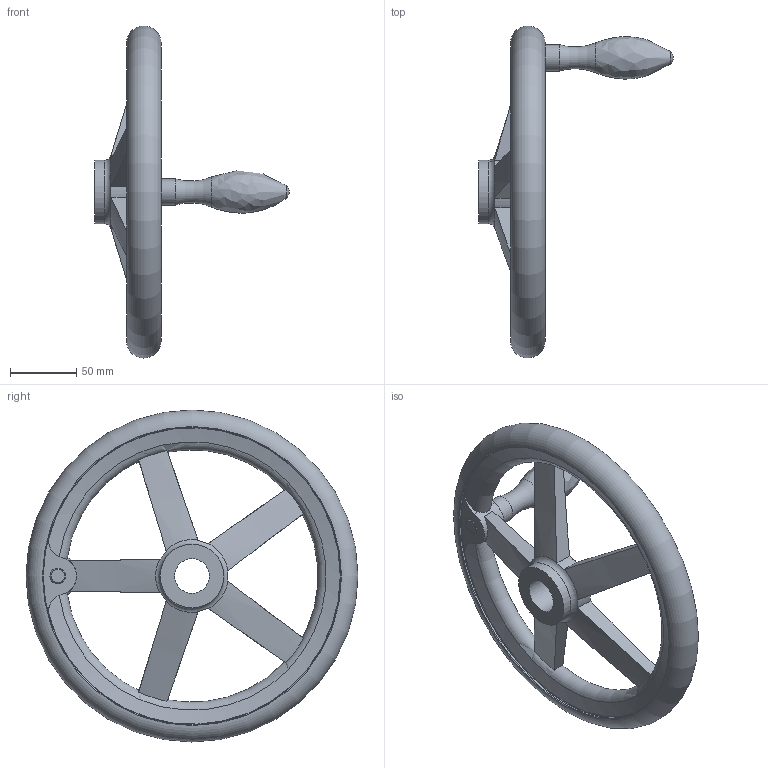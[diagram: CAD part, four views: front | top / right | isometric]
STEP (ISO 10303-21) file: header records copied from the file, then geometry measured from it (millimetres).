
FILE_DESCRIPTION( ( 'STEP AP203' ), '1' );
FILE_NAME( 'C:/Temp/Ganter_Step_05_03_2020/data/1_3/din_950/din_950_b/din_950_b_f/Handwheel DIN 950-GG-250-B26-F.stp', '2020-03-05T10:30:17', ( 'License CC BY-ND 4.0' ), ( 'CADENAS' ), ' ', 'PARTsolutions', ' ' );
FILE_SCHEMA( ( 'CONFIG_CONTROL_DESIGN' ) );
Length unit declared in the file: millimetre
Products named in the file (1): _Handwheel DIN 950-GG-250-B26-F
Bounding box: 146.5 x 250 x 250 mm (x, y, z)
Volume: 556334.8 mm3; surface area: 101974.9 mm2
Topology: 1 solids, 1 shells, 56 faces, 162 edges, 104 vertices
Faces by surface type: cylinder 17, plane 15, torus 13, cone 9, bspline 1, sphere 1
Full cylindrical faces by diameter (mm): 12 x1, 19.8 x1, 26 x1, 48 x2, 224 x2
Entity records: 2275 total; most frequent: CARTESIAN_POINT 921, ORIENTED_EDGE 274, DIRECTION 246, EDGE_CURVE 137, AXIS2_PLACEMENT_3D 115, VERTEX_POINT 100, EDGE_LOOP 83, FACE_OUTER_BOUND 72
